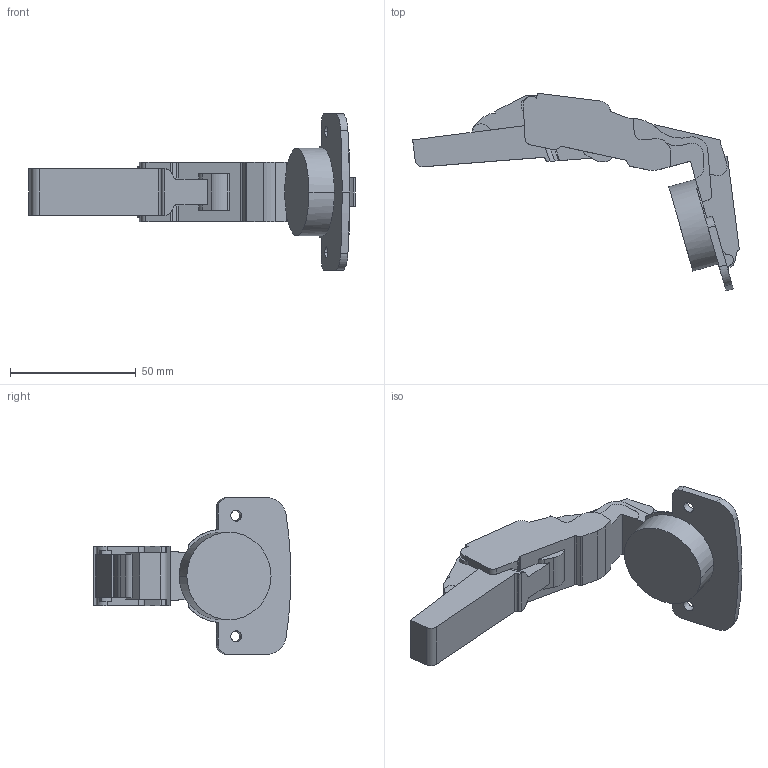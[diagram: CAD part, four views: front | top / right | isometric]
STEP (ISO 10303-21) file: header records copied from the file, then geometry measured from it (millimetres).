
FILE_DESCRIPTION (( 'STEP AP203' ), '1' );
FILE_NAME ('C82A206F-DTC 3D open.STEP', '2024-04-30T07:24:41', ( '微软用户' ), ( '微软中国' ), 'SwSTEP 2.0', 'SolidWorks 2021', '' );
FILE_SCHEMA (( 'CONFIG_CONTROL_DESIGN' ));
Length unit declared in the file: millimetre
Products named in the file (1): C82A206F-DTC 3D open
Bounding box: 129.86 x 78.56 x 62.2 mm (x, y, z)
Volume: 66237.3 mm3; surface area: 17578.2 mm2
Topology: 1 solids, 2 shells, 191 faces, 565 edges, 378 vertices
Faces by surface type: plane 99, cylinder 86, bspline 6
Entity records: 6668 total; most frequent: CARTESIAN_POINT 1392, ORIENTED_EDGE 1130, DIRECTION 1079, EDGE_CURVE 565, VERTEX_POINT 378, AXIS2_PLACEMENT_3D 360, LINE 359, VECTOR 359
